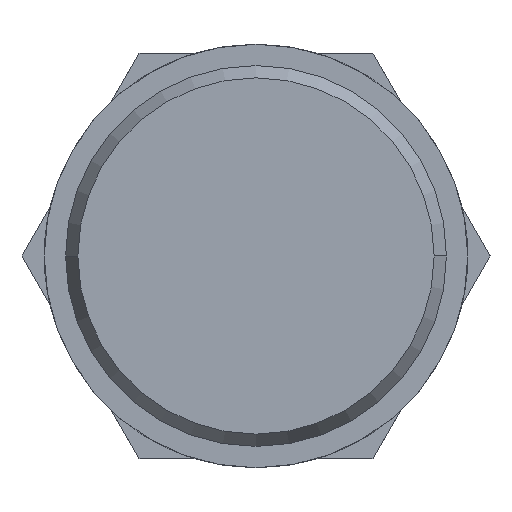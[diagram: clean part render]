
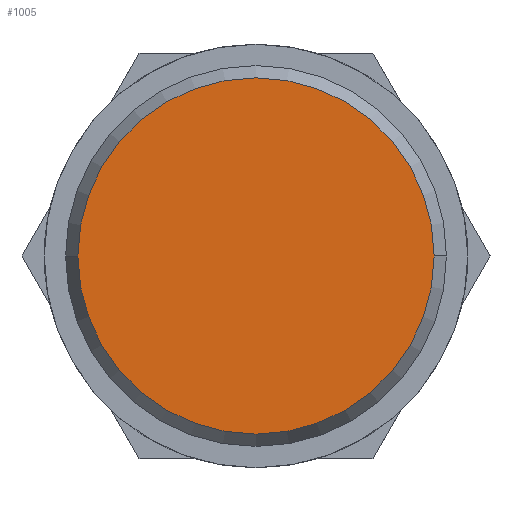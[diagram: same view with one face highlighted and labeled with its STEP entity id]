
A CAD part, left-side view. The second image highlights one B-rep face of the part: STEP entity #1005.
In plain terms, the highlighted planar face has unit normal (-1, 0, 0).
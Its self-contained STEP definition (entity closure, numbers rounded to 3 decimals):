
#38 = DIRECTION ( 'NONE',  ( 0., -1., 0. ) ) ;
#53 = DIRECTION ( 'NONE',  ( -1., 0., 0. ) ) ;
#59 = EDGE_CURVE ( 'NONE', #679, #407, #687, .T. ) ;
#84 = PLANE ( 'NONE',  #1034 ) ;
#108 = AXIS2_PLACEMENT_3D ( 'NONE', #298, #269, #265 ) ;
#122 = CIRCLE ( 'NONE', #108, 8.35 ) ;
#164 = AXIS2_PLACEMENT_3D ( 'NONE', #616, #260, #804 ) ;
#217 = ORIENTED_EDGE ( 'NONE', *, *, #59, .F. ) ;
#260 = DIRECTION ( 'NONE',  ( 1., 0., 0. ) ) ;
#265 = DIRECTION ( 'NONE',  ( 0., 1., 0. ) ) ;
#269 = DIRECTION ( 'NONE',  ( 1., 0., 0. ) ) ;
#298 = CARTESIAN_POINT ( 'NONE',  ( 0., 0., 0. ) ) ;
#324 = CARTESIAN_POINT ( 'NONE',  ( 0., 0., 0. ) ) ;
#407 = VERTEX_POINT ( 'NONE', #719 ) ;
#432 = FACE_OUTER_BOUND ( 'NONE', #686, .T. ) ;
#473 = ORIENTED_EDGE ( 'NONE', *, *, #607, .F. ) ;
#607 = EDGE_CURVE ( 'NONE', #407, #679, #122, .T. ) ;
#616 = CARTESIAN_POINT ( 'NONE',  ( 0., 0., 0. ) ) ;
#679 = VERTEX_POINT ( 'NONE', #819 ) ;
#686 = EDGE_LOOP ( 'NONE', ( #473, #217 ) ) ;
#687 = CIRCLE ( 'NONE', #164, 8.35 ) ;
#719 = CARTESIAN_POINT ( 'NONE',  ( 0., 8.35, 0. ) ) ;
#804 = DIRECTION ( 'NONE',  ( 0., 1., 0. ) ) ;
#819 = CARTESIAN_POINT ( 'NONE',  ( 0., -8.35, 0. ) ) ;
#1005 = ADVANCED_FACE ( 'NONE', ( #432 ), #84, .T. ) ;
#1034 = AXIS2_PLACEMENT_3D ( 'NONE', #324, #53, #38 ) ;
